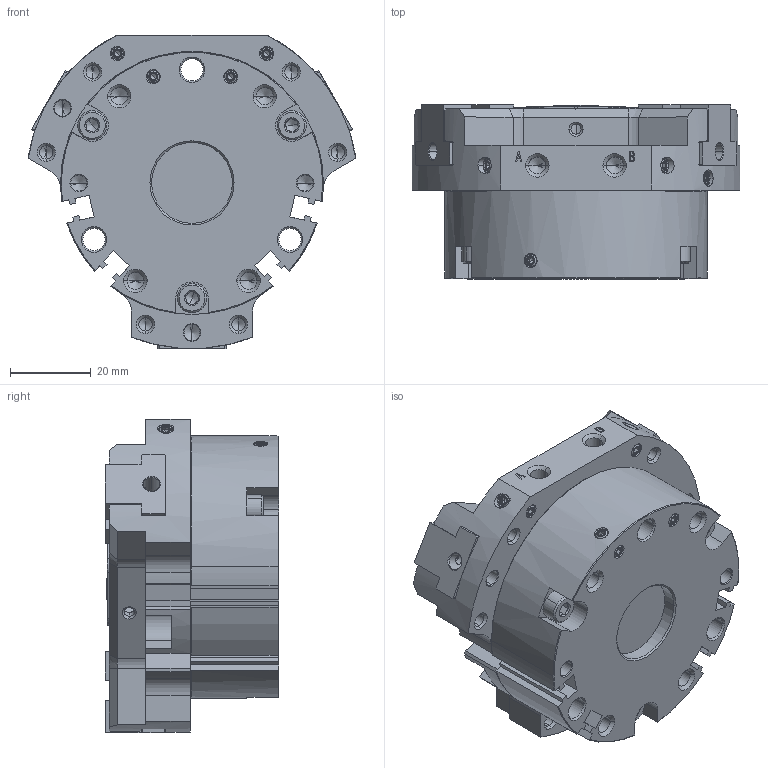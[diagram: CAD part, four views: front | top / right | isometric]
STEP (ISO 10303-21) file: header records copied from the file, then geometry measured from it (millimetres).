
FILE_DESCRIPTION (( 'STEP AP214' ), '1' );
FILE_NAME ('HP-NTS307-UC.STEP', '2025-01-09T05:55:29', ( '' ), ( '' ), 'SwSTEP 2.0', 'SolidWorks 2022', '' );
FILE_SCHEMA (( 'AUTOMOTIVE_DESIGN' ));
Length unit declared in the file: millimetre
Products named in the file (9): S-TOME2^HP-NTS307; S-TOME1^HP-NTS307; COVER^HP-NTS307; HP-NTS307-UC; MASTER JAW^HP-NTS307; BODY^HP-NTS307; S-SARA^HP-NTS307; BOLT^HP-NTS307; REAR BODY^HP-NTS307
Assembly tree (20 placements, depth 2):
  HP-NTS307-UC
    BODY^HP-NTS307
    REAR BODY^HP-NTS307
    MASTER JAW^HP-NTS307  x3
    COVER^HP-NTS307
    BOLT^HP-NTS307  x3
    S-SARA^HP-NTS307  x3
    S-TOME1^HP-NTS307  x7
    S-TOME2^HP-NTS307
Bounding box: 81.09 x 43 x 77.5 mm (x, y, z)
Volume: 130951.8 mm3; surface area: 46843 mm2
Topology: 20 solids, 20 shells, 1954 faces, 5319 edges, 3415 vertices
Faces by surface type: plane 1289, cone 290, cylinder 255, bspline 120
Entity records: 58193 total; most frequent: CARTESIAN_POINT 16014, ORIENTED_EDGE 8998, DIRECTION 7715, EDGE_CURVE 4499, VECTOR 3631, LINE 3631, VERTEX_POINT 2951, AXIS2_PLACEMENT_3D 2042
